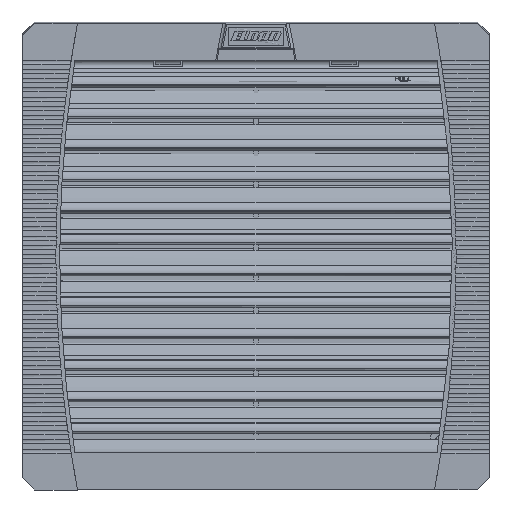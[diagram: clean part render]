
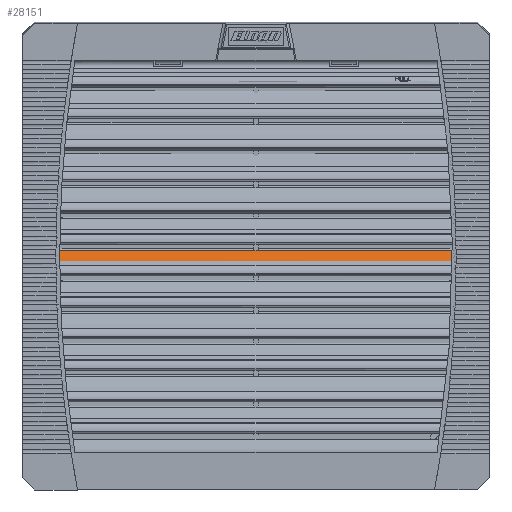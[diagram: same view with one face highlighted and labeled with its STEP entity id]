
A CAD part, top view. The second image highlights one B-rep face of the part: STEP entity #28151.
In plain terms, the highlighted cylindrical face has radius 78.24 mm (diameter 156.48 mm), a partial arc.
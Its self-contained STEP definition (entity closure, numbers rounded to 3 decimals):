
#4849 = CARTESIAN_POINT ( 'NONE',  ( -105.996, -2.471, -0.267 ) ) ;
#4877 = CARTESIAN_POINT ( 'NONE',  ( -105.996, -2.471, -0.267 ) ) ;
#4879 = CARTESIAN_POINT ( 'NONE',  ( -105.998, -1.677, -1.423 ) ) ;
#4880 = CARTESIAN_POINT ( 'NONE',  ( -106., -0.853, -2.555 ) ) ;
#4881 = CARTESIAN_POINT ( 'NONE',  ( -106., 0., -3.663 ) ) ;
#4886 = B_SPLINE_CURVE_WITH_KNOTS ( 'NONE', 3,
 ( #4881, #4880, #4879, #4877 ),
 .UNSPECIFIED., .F., .F.,
 ( 4, 4 ),
 ( 0.555, 1. ),
 .UNSPECIFIED. ) ;
#4900 = CARTESIAN_POINT ( 'NONE',  ( -106., 0., -3.663 ) ) ;
#5023 = CARTESIAN_POINT ( 'NONE',  ( -106., 0., -3.663 ) ) ;
#5025 = CARTESIAN_POINT ( 'NONE',  ( -106., 1.064, -5.046 ) ) ;
#5026 = CARTESIAN_POINT ( 'NONE',  ( -105.998, 2.174, -6.393 ) ) ;
#5027 = CARTESIAN_POINT ( 'NONE',  ( -105.992, 3.331, -7.704 ) ) ;
#5031 = B_SPLINE_CURVE_WITH_KNOTS ( 'NONE', 3,
 ( #5027, #5026, #5025, #5023 ),
 .UNSPECIFIED., .F., .F.,
 ( 4, 4 ),
 ( 0., 0.555 ),
 .UNSPECIFIED. ) ;
#5291 = CARTESIAN_POINT ( 'NONE',  ( -105.992, 3.331, -7.704 ) ) ;
#28151 = ADVANCED_FACE ( 'NONE', ( #118675 ), #118761, .T. ) ;
#28152 = ORIENTED_EDGE ( 'NONE', *, *, #28290, .T. ) ;
#28164 = ORIENTED_EDGE ( 'NONE', *, *, #28485, .F. ) ;
#28168 = ORIENTED_EDGE ( 'NONE', *, *, #110844, .F. ) ;
#28170 = ORIENTED_EDGE ( 'NONE', *, *, #106989, .F. ) ;
#28284 = ORIENTED_EDGE ( 'NONE', *, *, #107056, .F. ) ;
#28290 = EDGE_CURVE ( 'NONE', #107152, #111057, #118625, .T. ) ;
#28305 = EDGE_LOOP ( 'NONE', ( #28168, #28164, #28170, #28284, #28152 ) ) ;
#28485 = EDGE_CURVE ( 'NONE', #106976, #110842, #119355, .T. ) ;
#36630 = CARTESIAN_POINT ( 'NONE',  ( 105.996, -2.471, -0.267 ) ) ;
#36665 = CARTESIAN_POINT ( 'NONE',  ( 105.992, 3.331, -7.704 ) ) ;
#36667 = CARTESIAN_POINT ( 'NONE',  ( 106.002, 1.247, -5.342 ) ) ;
#36669 = CARTESIAN_POINT ( 'NONE',  ( 106.002, -0.687, -2.863 ) ) ;
#36671 = CARTESIAN_POINT ( 'NONE',  ( 105.996, -2.471, -0.267 ) ) ;
#36675 = B_SPLINE_CURVE_WITH_KNOTS ( 'NONE', 3,
 ( #36671, #36669, #36667, #36665 ),
 .UNSPECIFIED., .F., .F.,
 ( 4, 4 ),
 ( 0., 1. ),
 .UNSPECIFIED. ) ;
#37714 = CARTESIAN_POINT ( 'NONE',  ( 105.992, 3.331, -7.704 ) ) ;
#106976 = VERTEX_POINT ( 'NONE', #4849 ) ;
#106980 = VERTEX_POINT ( 'NONE', #4900 ) ;
#106989 = EDGE_CURVE ( 'NONE', #106980, #106976, #4886, .T. ) ;
#107056 = EDGE_CURVE ( 'NONE', #107152, #106980, #5031, .T. ) ;
#107152 = VERTEX_POINT ( 'NONE', #5291 ) ;
#110842 = VERTEX_POINT ( 'NONE', #36630 ) ;
#110844 = EDGE_CURVE ( 'NONE', #110842, #111057, #36675, .T. ) ;
#111057 = VERTEX_POINT ( 'NONE', #37714 ) ;
#118623 = DIRECTION ( 'NONE',  ( 1., 0., 0. ) ) ;
#118624 = VECTOR ( 'NONE', #118623, 1000. ) ;
#118625 = LINE ( 'NONE', #118643, #118624 ) ;
#118643 = CARTESIAN_POINT ( 'NONE',  ( 126.001, 3.331, -7.704 ) ) ;
#118663 = DIRECTION ( 'NONE',  ( 0., 0., 1. ) ) ;
#118667 = CARTESIAN_POINT ( 'NONE',  ( 126.001, 62.007, 44.05 ) ) ;
#118672 = DIRECTION ( 'NONE',  ( -1., 0., 0. ) ) ;
#118674 = AXIS2_PLACEMENT_3D ( 'NONE', #118667, #118672, #118663 ) ;
#118675 = FACE_OUTER_BOUND ( 'NONE', #28305, .T. ) ;
#118761 = CYLINDRICAL_SURFACE ( 'NONE', #118674, 78.24 ) ;
#119355 = LINE ( 'NONE', #119393, #119432 ) ;
#119393 = CARTESIAN_POINT ( 'NONE',  ( 126.001, -2.471, -0.267 ) ) ;
#119431 = DIRECTION ( 'NONE',  ( 1., 0., 0. ) ) ;
#119432 = VECTOR ( 'NONE', #119431, 1000. ) ;
